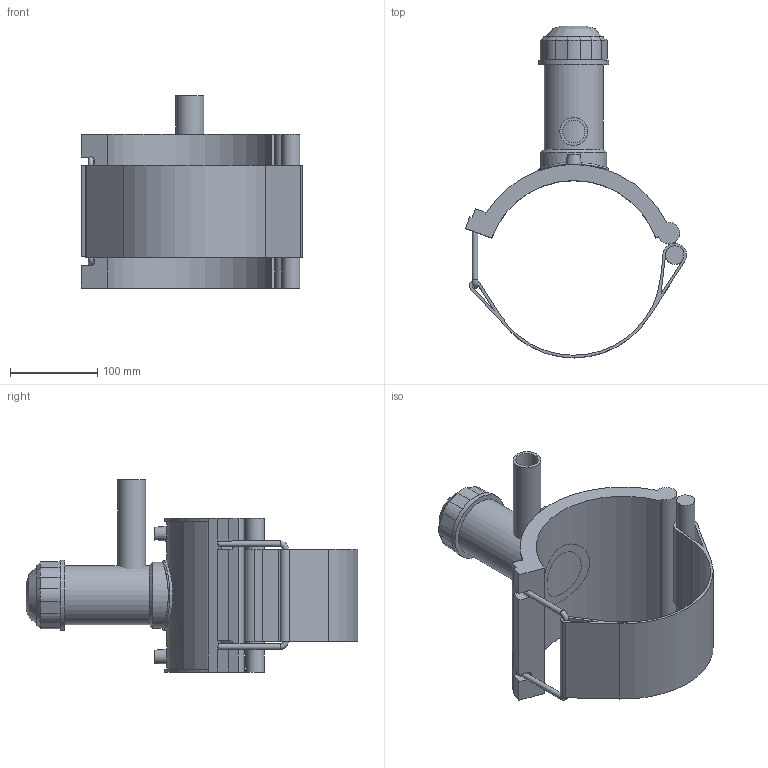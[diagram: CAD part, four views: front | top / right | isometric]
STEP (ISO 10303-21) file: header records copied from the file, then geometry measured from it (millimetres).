
FILE_DESCRIPTION(/* description */ (''),/* implementation_level */ '2;1');
FILE_NAME(/* name */ 'C:\Dropbox\KIMPROJECTS-Inventor 2019\99-16-3568-Processing\ElectroFusion Fittings\4963P4\stp\4963P4200032.stp',/* time_stamp */ '2022-03-17T11:31:38+02:00',/* author */ ('KIM'),/* organization */ (''),/* preprocessor_version */ 'ST-DEVELOPER v17.2',/* originating_system */ 'Autodesk Inventor 2019',/* authorisation */ '');
FILE_SCHEMA (('AUTOMOTIVE_DESIGN { 1 0 10303 214 3 1 1 }'));
Length unit declared in the file: millimetre
Products named in the file (1): 4963P4200032
Bounding box: 253.17 x 380 x 220 mm (x, y, z)
Volume: 1523945.1 mm3; surface area: 335922.5 mm2
Topology: 3 solids, 3 shells, 122 faces, 309 edges, 201 vertices
Faces by surface type: plane 69, cylinder 38, cone 11, torus 2, bspline 2
Full cylindrical faces by diameter (mm): 4 x2, 6.4 x2, 10 x2, 21.077 x1, 25.6 x1, 32 x1, 56 x1, 68 x1, 76 x1, 80 x2
Entity records: 4173 total; most frequent: CARTESIAN_POINT 1087, DIRECTION 653, ORIENTED_EDGE 620, EDGE_CURVE 310, AXIS2_PLACEMENT_3D 237, VERTEX_POINT 201, LINE 179, VECTOR 179
